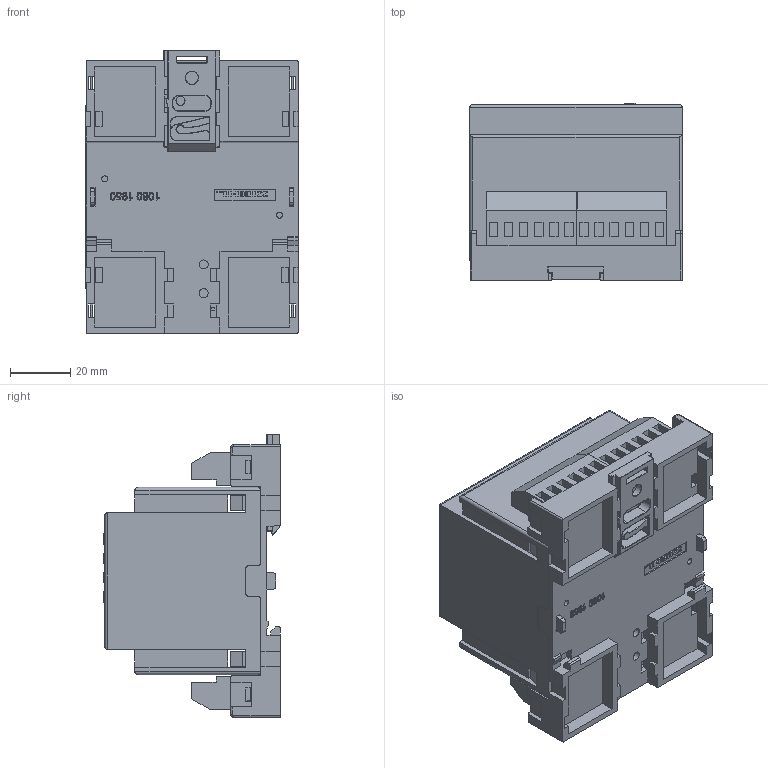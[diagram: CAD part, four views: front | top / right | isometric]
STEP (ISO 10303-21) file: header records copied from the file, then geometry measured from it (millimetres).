
FILE_DESCRIPTION (( 'STEP AP214' ), '1' );
FILE_NAME ('11730-1901-00_STW1000_3D.STEP', '2014-10-16T05:10:04', ( '' ), ( '' ), 'SwSTEP 2.0', 'SolidWorks 2014', '' );
FILE_SCHEMA (( 'AUTOMOTIVE_DESIGN' ));
Length unit declared in the file: millimetre
Products named in the file (11): 31071106; 1173 1251_STW1000_3D; Potiknopf_3D f黵 Modelle; 31071102; V4_Frontplatte; 1080 1960.3_3D_V4_OT; V4_Leiterplatte; 1080 1990.5_V-Riegel_3D; 1080 1950.4_3D_V4_UT; 11730-1901-00_STW1000_3D
Assembly tree (14 placements, depth 2):
  11730-1901-00_STW1000_3D
    1080 1950.4_3D_V4_UT
    1080 1990.5_V-Riegel_3D
    V4_Leiterplatte
    1080 1960.3_3D_V4_OT
    V4_Frontplatte
    31071102
    Potiknopf_3D f黵 Modelle  x4
    1173 1251_STW1000_3D
    31071106  x2
    31071106
Bounding box: 70.5 x 58.7 x 93.79 mm (x, y, z)
Volume: 71922.7 mm3; surface area: 82635.5 mm2
Topology: 13 solids, 402 shells, 5408 faces, 13269 edges, 8749 vertices
Faces by surface type: plane 4164, bspline 906, cylinder 262, torus 58, sphere 18
Full cylindrical faces by diameter (mm): 0.56 x8, 0.7 x8, 1.5 x4, 1.8 x4, 2 x2, 2.8 x1, 3 x4, 3.5 x8, 3.658 x2, 4 x24, 4.2 x1, 4.5 x2, 6 x2
Entity records: 182734 total; most frequent: CARTESIAN_POINT 61170, ORIENTED_EDGE 25350, DIRECTION 19928, EDGE_CURVE 12677, LINE 10352, VECTOR 10352, VERTEX_POINT 8416, EDGE_LOOP 5623
